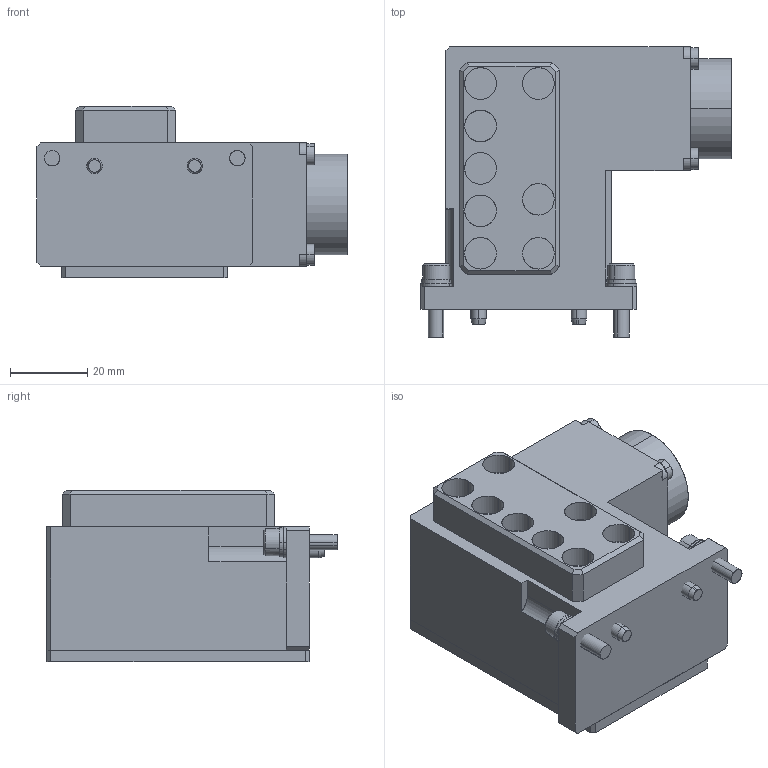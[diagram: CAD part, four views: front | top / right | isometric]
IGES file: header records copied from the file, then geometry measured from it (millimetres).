
Start section: SolidWorks IGES file using analytic representation for surfaces
Global section: file name: \\Ss-share1\share\030eins事業部\技術課\☆eins parts 量産図\3D\ﾁｬｯｸ交換\ﾁｬｯｸﾜﾝﾀｯﾁ ｱｸｾｻﾘｰ\OXR-MPS\OXR-MPS0508\WEB用データ\140393.IGS; native system: SolidWorks 2021; preprocessor: SolidWorks 2021; author: STAR050C; date: 230620.144105; units: millimetre
Bounding box: 80.5 x 75.2 x 44.5 mm (x, y, z)
Surface area: 29050.9 mm2 (no closed solid volume)
Topology: 0 solids, 0 shells, 162 faces, 2239 edges, 2239 vertices
Faces by surface type: revolution 81, bspline 81
